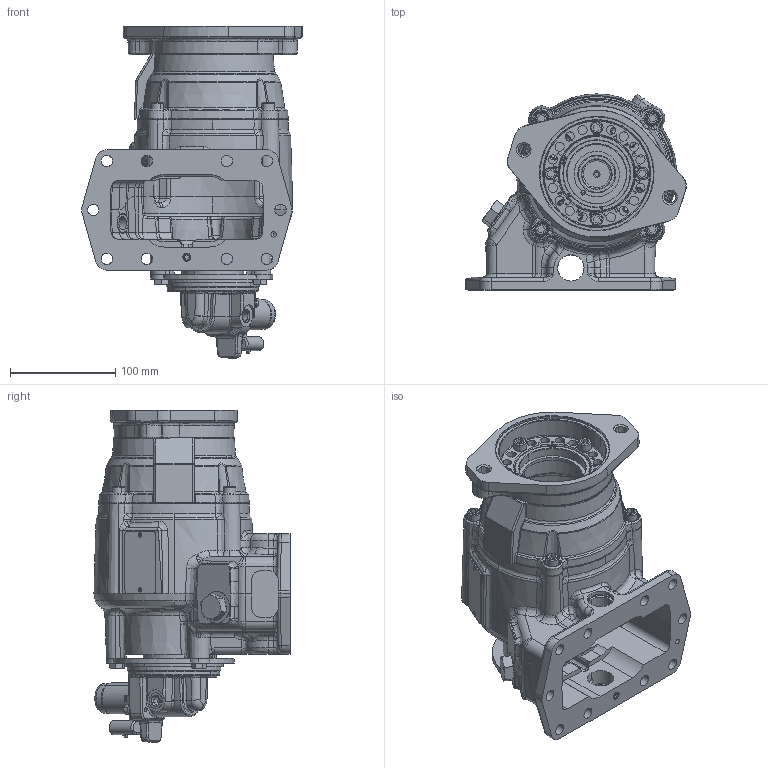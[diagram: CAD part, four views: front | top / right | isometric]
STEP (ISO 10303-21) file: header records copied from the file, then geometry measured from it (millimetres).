
FILE_DESCRIPTION (( 'STEP AP203' ), '1' );
FILE_NAME ('A20-A10XX-HX1BSPX.STEP', '2023-03-22T19:27:54', ( '' ), ( '' ), 'SwSTEP 2.0', 'SolidWorks 2021', '' );
FILE_SCHEMA (( 'CONFIG_CONTROL_DESIGN' ));
Length unit declared in the file: inch
Products named in the file (13): 19T36588_19T36588; SC-301_25T37702; DropInSolenoidRearCoverAssembly; 01T43462_1Arrangement; 12T36701; 47T6123TMP_Solenoid; 15T65391DB3; A20-A10XX-HX1BSPX; 19T62950; 35T40860; 47T6123_15T43431_DUST CAP INSTALLED; 14T65650; 15T43431_FOR CLAMPS
Assembly tree (20 placements, depth 4):
  A20-A10XX-HX1BSPX
    01T43462_1Arrangement
    15T65391DB3
    14T65650
    19T36588_19T36588  x8
    DropInSolenoidRearCoverAssembly
      47T6123TMP_Solenoid
      47T6123_15T43431_DUST CAP INSTALLED
        15T43431_FOR CLAMPS
        19T62950  x2
        12T36701
        SC-301_25T37702
    35T40860
Bounding box: 209.6 x 186.36 x 315.55 mm (x, y, z)
Volume: 731836.9 mm3; surface area: 456060.4 mm2
Topology: 24 solids, 37 shells, 3492 faces, 8654 edges, 5315 vertices
Faces by surface type: plane 1140, bspline 923, cylinder 761, cone 390, torus 242, sphere 36
Entity records: 164002 total; most frequent: CARTESIAN_POINT 89545, ORIENTED_EDGE 16330, DIRECTION 13532, EDGE_CURVE 8174, AXIS2_PLACEMENT_3D 5184, VERTEX_POINT 5083, EDGE_LOOP 3648, ADVANCED_FACE 3324
